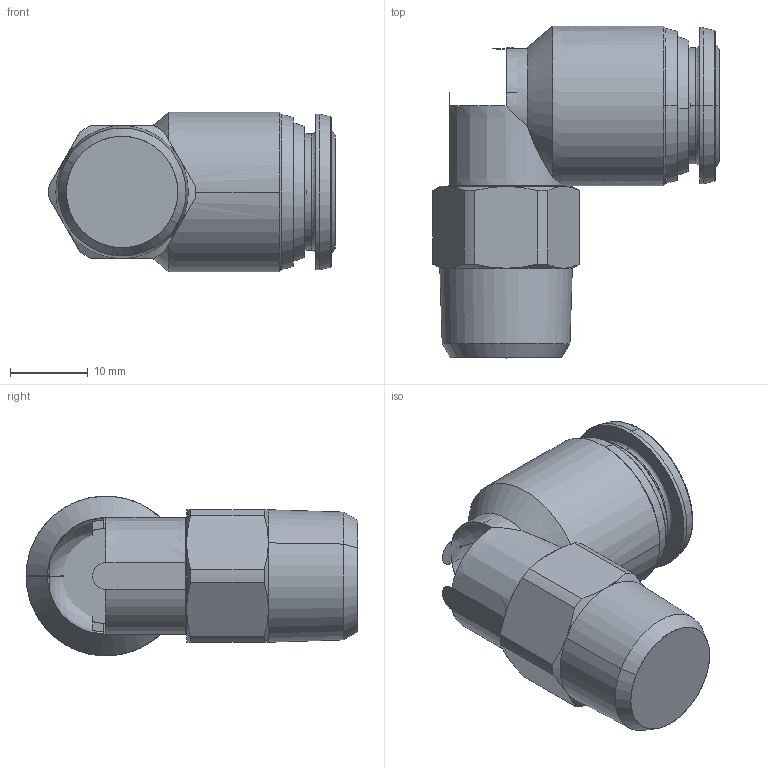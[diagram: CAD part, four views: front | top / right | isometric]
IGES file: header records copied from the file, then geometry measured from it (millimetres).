
Start section: SolidWorks IGES file using analytic representation for surfaces
Global section: file name: C:\Users\cad07\Desktop\desktop\Desktop\VARI\60000X step\60110X\60110X0010.IGS; native system: SolidWorks 2020; preprocessor: SolidWorks 2020; author: cad07; date: 240417.092038; units: millimetre
Bounding box: 36.75 x 42.6 x 20.5 mm (x, y, z)
Surface area: 5143.8 mm2 (no closed solid volume)
Topology: 0 solids, 0 shells, 116 faces, 1401 edges, 1399 vertices
Faces by surface type: revolution 73, bspline 43
